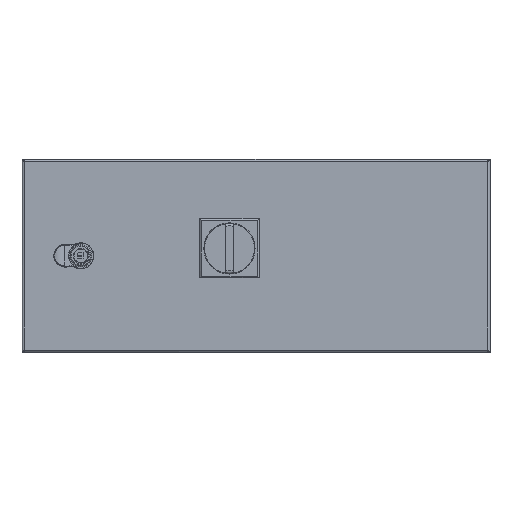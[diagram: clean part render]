
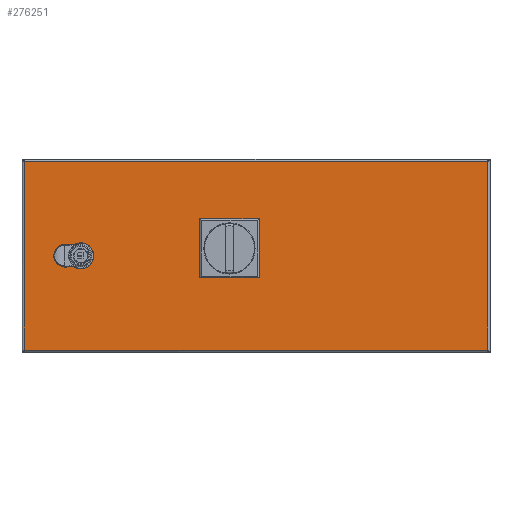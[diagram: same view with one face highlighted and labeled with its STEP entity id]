
A CAD part, top view. The second image highlights one B-rep face of the part: STEP entity #276251.
In plain terms, the highlighted planar face has unit normal (0, 0, 1).
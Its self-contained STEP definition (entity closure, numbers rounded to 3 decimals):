
#270161=CARTESIAN_POINT(' ',(289.389,122.733,179.253));
#270162=VERTEX_POINT(' ',#270161);
#270826=CARTESIAN_POINT(' ',(289.389,-116.667,179.253));
#270827=VERTEX_POINT(' ',#270826);
#271801=CARTESIAN_POINT(' ',(289.389,122.733,179.253));
#271806=DIRECTION(' ',(0.,-1.,0.));
#271811=VECTOR(' ',#271806,1.);
#271816=LINE('',#271801,#271811);
#271821=EDGE_CURVE(' ',#270162,#270827,#271816,.T.);
#274056=CARTESIAN_POINT(' ',(-299.011,-116.667,179.253));
#274057=VERTEX_POINT(' ',#274056);
#274671=CARTESIAN_POINT(' ',(-299.011,122.733,179.253));
#274672=VERTEX_POINT(' ',#274671);
#276121=DIRECTION(' ',(-0.,-0.,1.));
#276126=CARTESIAN_POINT(' ',(289.389,-116.667,179.253));
#276131=DIRECTION(' ',(0.,1.,0.));
#276136=AXIS2_PLACEMENT_3D(' ',#276126,#276121,#276131);
#276141=PLANE('NONE',#276136);
#276146=CARTESIAN_POINT(' ',(-299.011,-116.667,179.253));
#276151=DIRECTION(' ',(1.,0.,0.));
#276156=VECTOR(' ',#276151,1.);
#276161=LINE('',#276146,#276156);
#276166=EDGE_CURVE(' ',#274057,#270827,#276161,.T.);
#276171=ORIENTED_EDGE(' ',*,*,#276166,.T.);
#276176=ORIENTED_EDGE(' ',*,*,#271821,.F.);
#276181=CARTESIAN_POINT(' ',(289.389,122.733,179.253));
#276186=DIRECTION(' ',(-1.,0.,0.));
#276191=VECTOR(' ',#276186,1.);
#276196=LINE('',#276181,#276191);
#276201=EDGE_CURVE(' ',#270162,#274672,#276196,.T.);
#276206=ORIENTED_EDGE(' ',*,*,#276201,.T.);
#276211=CARTESIAN_POINT(' ',(-299.011,122.733,179.253));
#276216=DIRECTION(' ',(0.,-1.,0.));
#276221=VECTOR(' ',#276216,1.);
#276226=LINE('',#276211,#276221);
#276231=EDGE_CURVE(' ',#274672,#274057,#276226,.T.);
#276236=ORIENTED_EDGE(' ',*,*,#276231,.T.);
#276241=EDGE_LOOP(' ',(#276171,#276176,#276206,#276236));
#276246=FACE_OUTER_BOUND(' ',#276241,.T.);
#276251=ADVANCED_FACE('NONE',(#276246),#276141,.T.);
